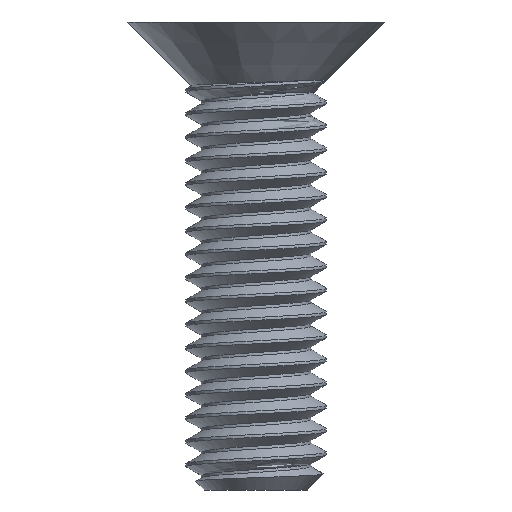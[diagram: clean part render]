
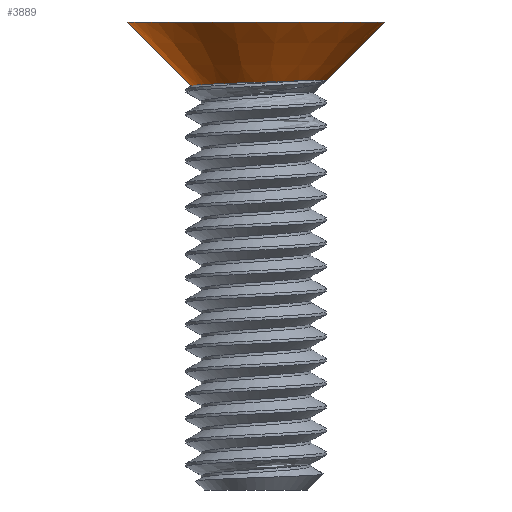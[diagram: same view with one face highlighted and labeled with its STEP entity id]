
A CAD part, left-side view. The second image highlights one B-rep face of the part: STEP entity #3889.
In plain terms, the highlighted conical face has half-angle 45 degrees and reference radius 3 mm.
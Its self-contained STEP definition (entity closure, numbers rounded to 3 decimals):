
#430 = CARTESIAN_POINT ( 'NONE',  ( 0., 0., 3. ) ) ;
#469 = CARTESIAN_POINT ( 'NONE',  ( -2.89, 0.36, 0.409 ) ) ;
#771 = CIRCLE ( 'NONE', #1466, 3. ) ;
#796 = CIRCLE ( 'NONE', #5244, 5.5 ) ;
#894 = EDGE_CURVE ( 'NONE', #1804, #3296, #4433, .T. ) ;
#901 = CARTESIAN_POINT ( 'NONE',  ( -2.9, -0.487, 0.437 ) ) ;
#913 = DIRECTION ( 'NONE',  ( 0., 0., 1. ) ) ;
#931 = CARTESIAN_POINT ( 'NONE',  ( -2.824, -0.904, 0.452 ) ) ;
#984 = CARTESIAN_POINT ( 'NONE',  ( -2.746, 0.908, 0.389 ) ) ;
#991 = CARTESIAN_POINT ( 'NONE',  ( 0., 0., 0.5 ) ) ;
#1115 = VECTOR ( 'NONE', #2311, 1000. ) ;
#1302 = CARTESIAN_POINT ( 'NONE',  ( 0., -3., 0.5 ) ) ;
#1304 = CARTESIAN_POINT ( 'NONE',  ( -2.121, -2.121, 0.5 ) ) ;
#1309 = CARTESIAN_POINT ( 'NONE',  ( -2.121, -2.121, 0.5 ) ) ;
#1335 = CARTESIAN_POINT ( 'NONE',  ( -2.921, 0.079, 0.418 ) ) ;
#1466 = AXIS2_PLACEMENT_3D ( 'NONE', #991, #2687, #3465 ) ;
#1507 = CONICAL_SURFACE ( 'NONE', #1766, 3., 0.785 ) ;
#1563 = ORIENTED_EDGE ( 'NONE', *, *, #4627, .F. ) ;
#1609 = CARTESIAN_POINT ( 'NONE',  ( 0., 2.762, 0.262 ) ) ;
#1740 = CARTESIAN_POINT ( 'NONE',  ( -2.864, 0.501, 0.404 ) ) ;
#1766 = AXIS2_PLACEMENT_3D ( 'NONE', #4511, #3318, #4110 ) ;
#1804 = VERTEX_POINT ( 'NONE', #4911 ) ;
#1822 = CARTESIAN_POINT ( 'NONE',  ( -0.704, 2.701, 0.288 ) ) ;
#1864 = VERTEX_POINT ( 'NONE', #3241 ) ;
#1921 = EDGE_CURVE ( 'NONE', #2206, #4494, #5023, .T. ) ;
#2006 = VECTOR ( 'NONE', #2543, 1000. ) ;
#2103 = EDGE_CURVE ( 'NONE', #1864, #4494, #796, .T. ) ;
#2143 = CARTESIAN_POINT ( 'NONE',  ( -1.37, 2.462, 0.314 ) ) ;
#2184 = ORIENTED_EDGE ( 'NONE', *, *, #894, .T. ) ;
#2206 = VERTEX_POINT ( 'NONE', #2985 ) ;
#2224 = CARTESIAN_POINT ( 'NONE',  ( -1.494, 2.395, 0.319 ) ) ;
#2258 = EDGE_LOOP ( 'NONE', ( #5100, #2184, #1563, #5034, #2760 ) ) ;
#2311 = DIRECTION ( 'NONE',  ( 0., 0.707, 0.707 ) ) ;
#2543 = DIRECTION ( 'NONE',  ( 0., -0.707, 0.707 ) ) ;
#2545 = CARTESIAN_POINT ( 'NONE',  ( -0.142, 2.767, 0.267 ) ) ;
#2628 = CARTESIAN_POINT ( 'NONE',  ( -1.112, 2.577, 0.303 ) ) ;
#2687 = DIRECTION ( 'NONE',  ( 0., 0., -1. ) ) ;
#2760 = ORIENTED_EDGE ( 'NONE', *, *, #2103, .F. ) ;
#2972 = CARTESIAN_POINT ( 'NONE',  ( -2.478, -1.682, 0.481 ) ) ;
#2985 = CARTESIAN_POINT ( 'NONE',  ( 0., -3., 0.5 ) ) ;
#3063 = LINE ( 'NONE', #3855, #1115 ) ;
#3241 = CARTESIAN_POINT ( 'NONE',  ( 0., 5.5, 3. ) ) ;
#3296 = VERTEX_POINT ( 'NONE', #1309 ) ;
#3318 = DIRECTION ( 'NONE',  ( 0., 0., 1. ) ) ;
#3344 = CARTESIAN_POINT ( 'NONE',  ( -0.566, 2.728, 0.282 ) ) ;
#3373 = CARTESIAN_POINT ( 'NONE',  ( -2.066, 1.974, 0.344 ) ) ;
#3457 = CARTESIAN_POINT ( 'NONE',  ( -0.976, 2.626, 0.298 ) ) ;
#3465 = DIRECTION ( 'NONE',  ( 0., 1., 0. ) ) ;
#3737 = CARTESIAN_POINT ( 'NONE',  ( -0.285, 2.761, 0.272 ) ) ;
#3793 = CARTESIAN_POINT ( 'NONE',  ( -1.849, 2.166, 0.334 ) ) ;
#3848 = CARTESIAN_POINT ( 'NONE',  ( -2.734, -1.173, 0.462 ) ) ;
#3855 = CARTESIAN_POINT ( 'NONE',  ( 0., 3., 0.5 ) ) ;
#3889 = ADVANCED_FACE ( 'NONE', ( #4596 ), #1507, .T. ) ;
#4110 = DIRECTION ( 'NONE',  ( 0., -1., 0. ) ) ;
#4162 = CARTESIAN_POINT ( 'NONE',  ( -2.925, -0.061, 0.423 ) ) ;
#4178 = CARTESIAN_POINT ( 'NONE',  ( 0., -5.5, 3. ) ) ;
#4241 = CARTESIAN_POINT ( 'NONE',  ( -2.317, -1.913, 0.491 ) ) ;
#4433 = B_SPLINE_CURVE_WITH_KNOTS ( 'NONE', 3,
 ( #1609, #2545, #3737, #3344, #1822, #3457, #2628, #2143, #2224, #3793, #3373, #5082, #4968, #984, #4997, #1740, #469, #1335, #4162, #5025, #901, #931, #3848, #2972, #4241, #1304 ),
 .UNSPECIFIED., .F., .F.,
 ( 4, 2, 2, 2, 2, 2, 2, 2, 2, 2, 2, 2, 4 ),
 ( 0.007, 0.007, 0.008, 0.008, 0.009, 0.009, 0.01, 0.011, 0.011, 0.011, 0.012, 0.013, 0.014 ),
 .UNSPECIFIED. ) ;
#4494 = VERTEX_POINT ( 'NONE', #4178 ) ;
#4511 = CARTESIAN_POINT ( 'NONE',  ( 0., 0., 0.5 ) ) ;
#4596 = FACE_OUTER_BOUND ( 'NONE', #2258, .T. ) ;
#4627 = EDGE_CURVE ( 'NONE', #2206, #3296, #771, .T. ) ;
#4794 = EDGE_CURVE ( 'NONE', #1804, #1864, #3063, .T. ) ;
#4911 = CARTESIAN_POINT ( 'NONE',  ( 0., 2.762, 0.262 ) ) ;
#4950 = DIRECTION ( 'NONE',  ( 0., -1., 0. ) ) ;
#4968 = CARTESIAN_POINT ( 'NONE',  ( -2.58, 1.297, 0.374 ) ) ;
#4997 = CARTESIAN_POINT ( 'NONE',  ( -2.792, 0.775, 0.394 ) ) ;
#5023 = LINE ( 'NONE', #1302, #2006 ) ;
#5025 = CARTESIAN_POINT ( 'NONE',  ( -2.915, -0.344, 0.432 ) ) ;
#5034 = ORIENTED_EDGE ( 'NONE', *, *, #1921, .T. ) ;
#5082 = CARTESIAN_POINT ( 'NONE',  ( -2.428, 1.543, 0.363 ) ) ;
#5100 = ORIENTED_EDGE ( 'NONE', *, *, #4794, .F. ) ;
#5244 = AXIS2_PLACEMENT_3D ( 'NONE', #430, #913, #4950 ) ;
